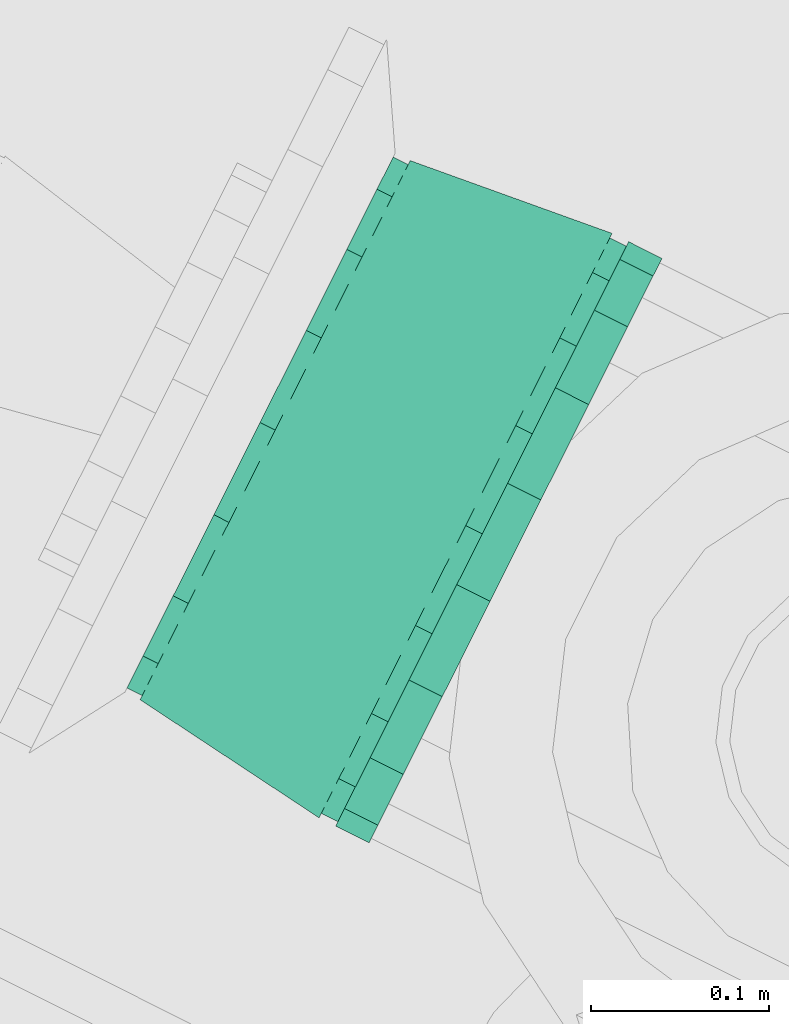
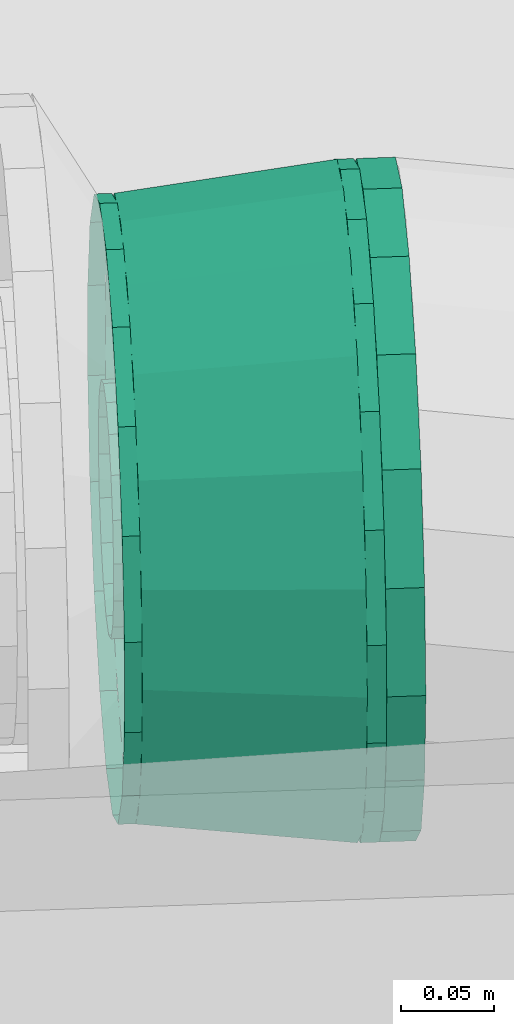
# One storey, part 64 of 206: 1 flow fitting, 1 flow segment.
"""IFC2X3 building model written with IfcOpenShell, lengths in metres."""

import ifcopenshell
import ifcopenshell.guid

model = None  # the IFC model being written
_history = None  # IfcOwnerHistory: only IFC2X3 demands one
_inside = {}  # id of a spatial element -> (the spatial element, [elements in it])
_under = {}  # id of a project, library or spatial element -> (it, [spatial elements below it])
_declared = {}  # id of a project -> (the project, [libraries it declares])
_typed = {}  # id of a type object -> (the type object, [elements of that type])
_made_of = {}  # id of a material, layer set ... -> (it, [elements and type objects made of it])


def new_model(schema):
    """Start an empty IFC model of exactly this schema.

    Asked for "IFC4X3", IfcOpenShell would pick the latest addendum, in which some entities
    have other attributes; the version numbers below select the first issue.
    IFC2X3 requires an IfcOwnerHistory on every rooted entity: one is made here for all.
    """
    global model, _history
    if schema == "IFC4X3":
        model = ifcopenshell.file(schema_version=(4, 3, 0, 0))
    else:
        model = ifcopenshell.file(schema=schema)
    _inside.clear()
    _under.clear()
    _declared.clear()
    _typed.clear()
    _made_of.clear()
    _history = None
    if model.schema == "IFC2X3":
        org = make("IfcOrganization", Name="unknown")
        user = make(
            "IfcPersonAndOrganization",
            ThePerson=make("IfcPerson", FamilyName="unknown"),
            TheOrganization=org,
        )
        app = make(
            "IfcApplication",
            ApplicationDeveloper=org,
            Version="unknown",
            ApplicationFullName="unknown",
            ApplicationIdentifier="unknown",
        )
        _history = make(
            "IfcOwnerHistory",
            OwningUser=user,
            OwningApplication=app,
            ChangeAction="ADDED",
            CreationDate=0,
        )
    return model


def make(cls, **values):
    """One entity of the class cls with the attributes given. An attribute that is None is left unset."""
    return model.create_entity(
        cls, **{name: value for name, value in values.items() if value is not None}
    )


def rooted(cls, **values):
    """An entity with a GlobalId (a new one), such as an element, a storey or a relation."""
    return make(cls, GlobalId=ifcopenshell.guid.new(), OwnerHistory=_history, **values)


def si_unit(unit_type, name, prefix=None):
    """IfcSIUnit, for example si_unit("LENGTHUNIT", "METRE", prefix="MILLI")."""
    return make("IfcSIUnit", UnitType=unit_type, Prefix=prefix, Name=name)


def derived_unit(unit_type, elements):
    """IfcDerivedUnit: a product of units, each with its exponent."""
    return make(
        "IfcDerivedUnit",
        Elements=[
            make("IfcDerivedUnitElement", Unit=unit, Exponent=power)
            for unit, power in elements
        ],
        UnitType=unit_type,
    )


def assignment(units):
    """IfcUnitAssignment: the units of a project."""
    return None if units is None else make("IfcUnitAssignment", Units=units)


def point(xyz):
    """IfcCartesianPoint."""
    return None if xyz is None else make("IfcCartesianPoint", Coordinates=xyz)


def direction(xyz):
    """IfcDirection."""
    return None if xyz is None else make("IfcDirection", DirectionRatios=xyz)


def frame(location, z_axis=None, x_axis=None):
    """IfcAxis2Placement3D, a coordinate frame: its origin and axes. An axis left out is left unset."""
    return make(
        "IfcAxis2Placement3D",
        Location=point(location),
        Axis=direction(z_axis),
        RefDirection=direction(x_axis),
    )


def origin():
    """The frame at (0, 0, 0) with its axes left unset."""
    return frame((0.0, 0.0, 0.0))


def place(relative_to, where):
    """IfcLocalPlacement: puts the frame where relative to a parent placement (None: the world)."""
    return make(
        "IfcLocalPlacement", PlacementRelTo=relative_to, RelativePlacement=where
    )


def context(
    kind, dimensions, precision=None, world=None, true_north=None, identifier=None
):
    """IfcGeometricRepresentationContext, for example the 3D "Model" context."""
    return make(
        "IfcGeometricRepresentationContext",
        ContextIdentifier=identifier,
        ContextType=kind,
        CoordinateSpaceDimension=dimensions,
        Precision=precision,
        WorldCoordinateSystem=world,
        TrueNorth=true_north,
    )


def subcontext(parent, identifier, kind, view, scale=None):
    """IfcGeometricRepresentationSubContext, for example "Body" below "Model"."""
    return make(
        "IfcGeometricRepresentationSubContext",
        ContextIdentifier=identifier,
        ContextType=kind,
        ParentContext=parent,
        TargetScale=scale,
        TargetView=view,
    )


def project(units=None, contexts=None):
    """IfcProject with its units and contexts."""
    return rooted(
        "IfcProject",
        Name="project",
        RepresentationContexts=contexts,
        UnitsInContext=assignment(units),
    )


def spatial(cls, under=None, at=None, **own):
    """A site, building, storey or space (cls), placed at a placement, below another one or the project."""
    s = rooted(cls, ObjectPlacement=at, **own)
    if under is not None:
        _under.setdefault(under.id(), (under, []))[1].append(s)
    return s


def faces_of(points, faces, orient=None, outer=None):
    """IfcFace entities. A face is a list of loops; a loop is a list of indices into points, from 0.

    orient and outer hold one flag for each loop. By default every Orientation is true, the
    first loop of a face is its IfcFaceOuterBound and the others are IfcFaceBound.
    """
    made = []
    for i, loops in enumerate(faces):
        bounds = []
        for j, loop in enumerate(loops):
            is_outer = j == 0 if outer is None else outer[i][j]
            bounds.append(
                make(
                    "IfcFaceOuterBound" if is_outer else "IfcFaceBound",
                    Bound=make("IfcPolyLoop", Polygon=[points[k] for k in loop]),
                    Orientation=True if orient is None else orient[i][j],
                )
            )
        made.append(make("IfcFace", Bounds=bounds))
    return made


def face_set(faces, orient=None, outer=None):
    """The faces of one IfcConnectedFaceSet. surface_model builds it on its shared points."""
    return ("IfcConnectedFaceSet", faces, orient, outer)


def surface_model(cls, points, shells):
    """IfcFaceBasedSurfaceModel or IfcShellBasedSurfaceModel (cls): surfaces that need not close."""
    shared = [point(p) for p in points]
    made = [make(c, CfsFaces=faces_of(shared, fs, o, b)) for c, fs, o, b in shells]
    if cls == "IfcFaceBasedSurfaceModel":
        return make(cls, FbsmFaces=made)
    return make(cls, SbsmBoundary=made)


def shape(context_of_items, identifier, shape_type, items):
    """IfcShapeRepresentation: the items that make up one representation, for example the "Body"."""
    return make(
        "IfcShapeRepresentation",
        ContextOfItems=context_of_items,
        RepresentationIdentifier=identifier,
        RepresentationType=shape_type,
        Items=items,
    )


def source(mapping_origin, context_of_items, identifier, shape_type, items):
    """IfcRepresentationMap: a shape defined once, which mapped items show again and again."""
    return make(
        "IfcRepresentationMap",
        MappingOrigin=mapping_origin,
        MappedRepresentation=shape(context_of_items, identifier, shape_type, items),
    )


def transform(
    local_origin,
    x_axis=None,
    y_axis=None,
    z_axis=None,
    scale=None,
    scale2=None,
    scale3=None,
    uniform=True,
):
    """IfcCartesianTransformationOperator3D, or its non-uniform kind. x_axis, y_axis, z_axis: its Axis1, 2, 3."""
    if uniform:
        return make(
            "IfcCartesianTransformationOperator3D",
            Axis1=direction(x_axis),
            Axis2=direction(y_axis),
            LocalOrigin=point(local_origin),
            Scale=scale,
            Axis3=direction(z_axis),
        )
    return make(
        "IfcCartesianTransformationOperator3DnonUniform",
        Axis1=direction(x_axis),
        Axis2=direction(y_axis),
        LocalOrigin=point(local_origin),
        Scale=scale,
        Axis3=direction(z_axis),
        Scale2=scale2,
        Scale3=scale3,
    )


def mapped(mapping_source, mapping_target):
    """IfcMappedItem: shows the shape of a source again, moved by a transform."""
    return make(
        "IfcMappedItem", MappingSource=mapping_source, MappingTarget=mapping_target
    )


def material(Name=None, Category=None):
    """IfcMaterial."""
    return make("IfcMaterial", Name=Name, Category=Category)


def made_of(thing, what):
    """Note that an element or type object is made of a material, layer set ...; save() writes the relation."""
    if what is not None:
        _made_of.setdefault(what.id(), (what, []))[1].append(thing)
    return thing


def type_object(cls, material=None, **own):
    """A type object (cls), such as IfcWallType, which elements share."""
    return made_of(rooted(cls, **own), material)


def type_shapes(of_type, sources):
    """Give a type object the sources (RepresentationMaps) that its elements show as mapped items."""
    of_type.RepresentationMaps = sources


def element(
    cls,
    number,
    at=None,
    inside=None,
    cuts=None,
    type_object=None,
    material=None,
    context=None,
    identifier="Body",
    shape_type=None,
    held_by="IfcProductDefinitionShape",
    body=None,
    shapes=None,
    **own,
):
    """One element of the class cls, such as IfcWall. Its Tag is "e" and its number.

    at: its placement. inside: the storey or other place that contains it. cuts: it is an
    opening in that element (IfcRelVoidsElement). A single representation is given by context,
    identifier, shape_type and body (its items); several are given by shapes. held_by: the class
    of the entity that holds the representations. save() writes the other relations.
    """
    e = rooted(cls, Tag="e%d" % number, ObjectPlacement=at, **own)
    if body is not None:
        shapes = [shape(context, identifier, shape_type, body)]
    if shapes is not None:
        e.Representation = make(held_by, Representations=shapes)
    if inside is not None:
        _inside.setdefault(inside.id(), (inside, []))[1].append(e)
    if cuts is not None:
        rooted(
            "IfcRelVoidsElement", RelatingBuildingElement=cuts, RelatedOpeningElement=e
        )
    if type_object is not None:
        _typed.setdefault(type_object.id(), (type_object, []))[1].append(e)
    return made_of(e, material)


def aggregate(whole, parts):
    """IfcRelAggregates: a whole, such as a stair, and the parts it consists of."""
    return rooted("IfcRelAggregates", RelatingObject=whole, RelatedObjects=parts)


def save(model, path):
    """Write the relations noted so far, then the file.

    IfcRelAggregates (storeys below a building ...), IfcRelContainedInSpatialStructure (elements
    in a storey), IfcRelDefinesByType, IfcRelAssociatesMaterial and IfcRelDeclares: one each for
    every whole, place, type object, material and project.
    """
    for whole, parts in _under.values():
        aggregate(whole, parts)
    for where, things in _inside.values():
        rooted(
            "IfcRelContainedInSpatialStructure",
            RelatedElements=things,
            RelatingStructure=where,
        )
    for kind, things in _typed.values():
        rooted("IfcRelDefinesByType", RelatedObjects=things, RelatingType=kind)
    for what, things in _made_of.values():
        rooted("IfcRelAssociatesMaterial", RelatedObjects=things, RelatingMaterial=what)
    for by, libraries in _declared.values():
        rooted("IfcRelDeclares", RelatingContext=by, RelatedDefinitions=libraries)
    model.write(path)


model = new_model("IFC2X3")

# Units and contexts
model_context = context("Model", 3, precision=5.2338327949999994e-05, world=origin(), true_north=direction((0.0, 1.0)))
body_context = subcontext(model_context, "Body", "Model", "MODEL_VIEW")
ifc_project = project(units=[si_unit("LENGTHUNIT", "METRE"), si_unit("AREAUNIT", "SQUARE_METRE"), si_unit("VOLUMEUNIT", "CUBIC_METRE"), si_unit("MASSUNIT", "GRAM", prefix="KILO"), si_unit("PLANEANGLEUNIT", "RADIAN"), derived_unit("THERMALTRANSMITTANCEUNIT", [(si_unit("MASSUNIT", "GRAM", prefix="KILO"), 1), (si_unit("THERMODYNAMICTEMPERATUREUNIT", "KELVIN"), -1), (si_unit("TIMEUNIT", "SECOND"), -3)])], contexts=[model_context])

# Site, building, storey
site_placement = place(None, frame((0.0, 0.0, 0.0), z_axis=(0.0, 0.0, 1.0), x_axis=(0.8939966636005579, -0.4480736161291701, 0.0)))
site = spatial("IfcSite", under=ifc_project, at=site_placement, Name="Default", CompositionType="ELEMENT")
building_placement = place(site_placement, origin())
building = spatial("IfcBuilding", under=site, at=building_placement, CompositionType="ELEMENT")
storey_placement = place(building_placement, origin())
storey = spatial("IfcBuildingStorey", under=building, at=storey_placement, Name="Erdgeschoss", CompositionType="ELEMENT", Elevation=0.0)

# Flow fitting
ifc_material = material(Name="IfcSurfaceStyle #1741")
distribution_element_type_1 = type_object("IfcDistributionElementType", Name="Übergangsstück 340926:Übergangsstück 340926", material=ifc_material)
shared_shape_1 = source(origin(), body_context, "Body", "SurfaceModel", [
    surface_model("IfcFaceBasedSurfaceModel", [(26.139855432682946, 5.395961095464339, 2.42385), (26.139855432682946, 5.372070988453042, 2.4196375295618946), (26.149384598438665, 5.372070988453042, 2.4196375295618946), (26.149384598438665, 5.395961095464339, 2.42385), (26.139855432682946, 5.351062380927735, 2.4075082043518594), (26.149384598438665, 5.351062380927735, 2.4075082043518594), (26.139855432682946, 5.335469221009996, 2.3889250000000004), (26.149384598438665, 5.335469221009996, 2.3889250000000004), (26.139855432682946, 5.327172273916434, 2.366129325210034), (26.149384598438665, 5.327172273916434, 2.366129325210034), (26.139855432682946, 5.327172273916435, 2.3418706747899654), (26.149384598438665, 5.327172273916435, 2.3418706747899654), (26.139855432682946, 5.335469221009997, 2.319075), (26.149384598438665, 5.335469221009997, 2.319075), (26.139855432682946, 5.3510623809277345, 2.30049179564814), (26.149384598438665, 5.3510623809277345, 2.30049179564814), (26.139855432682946, 5.372070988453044, 2.288362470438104), (26.149384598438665, 5.372070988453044, 2.288362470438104), (26.139855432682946, 5.3959610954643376, 2.28415), (26.149384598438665, 5.3959610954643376, 2.28415), (26.139855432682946, 5.419851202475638, 2.2883624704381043), (26.149384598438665, 5.419851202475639, 2.2883624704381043), (26.139855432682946, 5.440859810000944, 2.3004917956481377), (26.149384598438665, 5.440859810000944, 2.3004917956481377), (26.139855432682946, 5.456452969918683, 2.3190749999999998), (26.149384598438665, 5.456452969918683, 2.3190749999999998), (26.139855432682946, 5.464749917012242, 2.341870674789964), (26.149384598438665, 5.464749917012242, 2.341870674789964), (26.139855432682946, 5.46474991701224, 2.366129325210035), (26.149384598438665, 5.46474991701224, 2.366129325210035), (26.139855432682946, 5.456452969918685, 2.3889250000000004), (26.149384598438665, 5.456452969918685, 2.3889250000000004), (26.139855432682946, 5.440859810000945, 2.407508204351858), (26.149384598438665, 5.440859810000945, 2.407508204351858), (26.139855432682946, 5.4198512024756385, 2.419637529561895), (26.149384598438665, 5.4198512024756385, 2.419637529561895), (26.149384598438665, 5.3261110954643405, 2.354), (26.149384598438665, 5.330323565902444, 2.330109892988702), (26.269396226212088, 5.316885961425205, 2.325219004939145), (26.269396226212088, 5.311811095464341, 2.354), (26.149384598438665, 5.3424528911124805, 2.309101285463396), (26.269396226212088, 5.331498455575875, 2.2999094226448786), (26.149384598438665, 5.361036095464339, 2.293508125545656), (26.269396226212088, 5.353886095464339, 2.281123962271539), (26.149384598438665, 5.383831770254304, 2.285211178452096), (26.269396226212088, 5.381348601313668, 2.271128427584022), (26.149384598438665, 5.408090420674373, 2.2852111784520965), (26.269396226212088, 5.410573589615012, 2.2711284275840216), (26.149384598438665, 5.43088609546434, 2.293508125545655), (26.269396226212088, 5.438036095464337, 2.2811239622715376), (26.149384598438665, 5.449469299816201, 2.3091012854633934), (26.269396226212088, 5.460423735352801, 2.299909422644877), (26.149384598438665, 5.461598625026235, 2.330109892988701), (26.269396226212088, 5.475036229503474, 2.3252190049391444), (26.149384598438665, 5.465811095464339, 2.3539999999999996), (26.269396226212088, 5.480111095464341, 2.3539999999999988), (26.149384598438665, 5.4615986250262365, 2.377890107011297), (26.269396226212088, 5.475036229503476, 2.3827809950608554), (26.149384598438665, 5.4494692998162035, 2.3988987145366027), (26.269396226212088, 5.460423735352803, 2.4080905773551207), (26.149384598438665, 5.430886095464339, 2.4144918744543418), (26.269396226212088, 5.438036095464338, 2.4268760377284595), (26.149384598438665, 5.408090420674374, 2.422788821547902), (26.269396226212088, 5.410573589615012, 2.436871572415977), (26.149384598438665, 5.383831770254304, 2.4227888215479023), (26.269396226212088, 5.381348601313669, 2.436871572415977), (26.149384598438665, 5.361036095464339, 2.4144918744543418), (26.269396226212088, 5.35388609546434, 2.4268760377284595), (26.149384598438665, 5.3424528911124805, 2.3988987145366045), (26.269396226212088, 5.331498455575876, 2.4080905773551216), (26.149384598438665, 5.330323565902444, 2.377890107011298), (26.269396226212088, 5.316885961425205, 2.382780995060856), (26.269396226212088, 5.395961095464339, 2.438149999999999), (26.269396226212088, 5.367180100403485, 2.4330751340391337), (26.279855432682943, 5.367180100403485, 2.4330751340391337), (26.279855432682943, 5.395961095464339, 2.438149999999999), (26.269396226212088, 5.341870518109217, 2.418462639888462), (26.279855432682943, 5.341870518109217, 2.418462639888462), (26.269396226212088, 5.32308505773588, 2.396075), (26.279855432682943, 5.32308505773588, 2.396075), (26.269396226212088, 5.313089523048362, 2.3686124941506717), (26.279855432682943, 5.313089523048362, 2.3686124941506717), (26.269396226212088, 5.31308952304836, 2.339387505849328), (26.279855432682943, 5.31308952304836, 2.339387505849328), (26.269396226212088, 5.32308505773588, 2.3119249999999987), (26.279855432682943, 5.32308505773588, 2.3119249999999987), (26.269396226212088, 5.341870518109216, 2.289537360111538), (26.279855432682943, 5.341870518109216, 2.289537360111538), (26.269396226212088, 5.367180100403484, 2.2749248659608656), (26.279855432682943, 5.367180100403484, 2.2749248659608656), (26.269396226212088, 5.3959610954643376, 2.26985), (26.279855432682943, 5.3959610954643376, 2.26985), (26.269396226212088, 5.424742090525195, 2.274924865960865), (26.279855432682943, 5.424742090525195, 2.274924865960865), (26.269396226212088, 5.450051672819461, 2.2895373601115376), (26.279855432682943, 5.450051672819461, 2.2895373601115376), (26.269396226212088, 5.4688371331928, 2.3119249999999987), (26.279855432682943, 5.4688371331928, 2.3119249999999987), (26.269396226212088, 5.478832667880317, 2.339387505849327), (26.279855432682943, 5.478832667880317, 2.339387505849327), (26.269396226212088, 5.478832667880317, 2.3686124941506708), (26.279855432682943, 5.478832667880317, 2.3686124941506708), (26.269396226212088, 5.468837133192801, 2.3960750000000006), (26.279855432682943, 5.468837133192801, 2.3960750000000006), (26.269396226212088, 5.450051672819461, 2.4184626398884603), (26.279855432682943, 5.450051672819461, 2.4184626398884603), (26.269396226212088, 5.4247420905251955, 2.4330751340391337), (26.279855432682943, 5.4247420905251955, 2.4330751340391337), (26.139855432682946, 5.39596109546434, 2.5238499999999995), (26.139855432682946, 5.337868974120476, 2.513606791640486), (26.149384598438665, 5.337868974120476, 2.513606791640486), (26.149384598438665, 5.39596109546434, 2.5238499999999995), (26.139855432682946, 5.28678361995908, 2.4841126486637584), (26.149384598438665, 5.28678361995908, 2.4841126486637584), (26.139855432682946, 5.248866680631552, 2.4389250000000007), (26.149384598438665, 5.248866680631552, 2.4389250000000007), (26.139855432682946, 5.228691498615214, 2.383494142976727), (26.149384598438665, 5.228691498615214, 2.383494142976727), (26.139855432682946, 5.228691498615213, 2.3245058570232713), (26.149384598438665, 5.228691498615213, 2.3245058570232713), (26.139855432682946, 5.248866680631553, 2.269075), (26.149384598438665, 5.248866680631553, 2.269075), (26.139855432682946, 5.2867836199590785, 2.2238873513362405), (26.149384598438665, 5.2867836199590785, 2.2238873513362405), (26.139855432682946, 5.337868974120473, 2.1943932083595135), (26.149384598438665, 5.337868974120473, 2.1943932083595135), (26.139855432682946, 5.395961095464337, 2.1841499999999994), (26.149384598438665, 5.395961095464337, 2.1841499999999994), (26.139855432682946, 5.454053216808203, 2.1943932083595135), (26.149384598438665, 5.454053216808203, 2.1943932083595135), (26.139855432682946, 5.505138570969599, 2.2238873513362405), (26.149384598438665, 5.505138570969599, 2.2238873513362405), (26.139855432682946, 5.543055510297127, 2.2690749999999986), (26.149384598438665, 5.543055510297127, 2.2690749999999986), (26.139855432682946, 5.563230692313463, 2.3245058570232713), (26.149384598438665, 5.563230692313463, 2.3245058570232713), (26.139855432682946, 5.563230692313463, 2.3834941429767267), (26.149384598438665, 5.563230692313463, 2.3834941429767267), (26.139855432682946, 5.543055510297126, 2.4389249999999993), (26.149384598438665, 5.543055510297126, 2.4389249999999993), (26.139855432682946, 5.5051385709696, 2.484112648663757), (26.149384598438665, 5.5051385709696, 2.484112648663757), (26.139855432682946, 5.454053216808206, 2.513606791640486), (26.149384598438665, 5.454053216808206, 2.513606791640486), (26.149384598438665, 5.226111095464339, 2.3540000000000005), (26.149384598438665, 5.2363543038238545, 2.2959078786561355), (26.269396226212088, 5.222916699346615, 2.2910169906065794), (26.269396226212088, 5.211811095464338, 2.3540000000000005), (26.149384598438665, 5.26584844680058, 2.244822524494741), (26.269396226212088, 5.254894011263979, 2.235630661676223), (26.149384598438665, 5.311036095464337, 2.206905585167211), (26.269396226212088, 5.303886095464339, 2.194521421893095), (26.149384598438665, 5.366466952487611, 2.1867304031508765), (26.269396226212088, 5.363983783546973, 2.172647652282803), (26.149384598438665, 5.425455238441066, 2.1867304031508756), (26.269396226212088, 5.4279384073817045, 2.172647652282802), (26.149384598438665, 5.480886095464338, 2.206905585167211), (26.269396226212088, 5.488036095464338, 2.194521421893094), (26.149384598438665, 5.526073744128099, 2.244822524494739), (26.269396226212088, 5.5370281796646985, 2.235630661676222), (26.149384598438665, 5.555567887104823, 2.2959078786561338), (26.269396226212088, 5.569005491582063, 2.2910169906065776), (26.149384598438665, 5.565811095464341, 2.353999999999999), (26.269396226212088, 5.580111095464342, 2.353999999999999), (26.149384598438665, 5.555567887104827, 2.4120921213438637), (26.269396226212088, 5.5690054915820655, 2.4169830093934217), (26.149384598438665, 5.526073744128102, 2.463177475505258), (26.269396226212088, 5.5370281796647, 2.4723693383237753), (26.149384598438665, 5.48088609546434, 2.501094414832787), (26.269396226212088, 5.48803609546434, 2.513478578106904), (26.149384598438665, 5.425455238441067, 2.5212695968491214), (26.269396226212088, 5.427938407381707, 2.5353523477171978), (26.149384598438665, 5.366466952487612, 2.521269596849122), (26.269396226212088, 5.363983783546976, 2.5353523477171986), (26.149384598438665, 5.311036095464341, 2.5010944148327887), (26.269396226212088, 5.3038860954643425, 2.513478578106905), (26.149384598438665, 5.2658484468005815, 2.463177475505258), (26.269396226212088, 5.254894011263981, 2.4723693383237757), (26.149384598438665, 5.236354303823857, 2.412092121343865), (26.269396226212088, 5.222916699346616, 2.4169830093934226), (26.269396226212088, 5.395961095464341, 2.538149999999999), (26.269396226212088, 5.332978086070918, 2.527044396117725), (26.279855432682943, 5.332978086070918, 2.527044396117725), (26.279855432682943, 5.395961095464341, 2.538149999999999), (26.269396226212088, 5.277591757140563, 2.4950670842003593), (26.279855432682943, 5.277591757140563, 2.4950670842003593), (26.269396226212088, 5.236482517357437, 2.4460749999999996), (26.279855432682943, 5.236482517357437, 2.4460749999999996), (26.269396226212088, 5.214608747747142, 2.3859773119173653), (26.279855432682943, 5.214608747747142, 2.3859773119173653), (26.269396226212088, 5.214608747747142, 2.322022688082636), (26.279855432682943, 5.214608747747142, 2.322022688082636), (26.269396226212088, 5.2364825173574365, 2.2619249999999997), (26.279855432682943, 5.2364825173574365, 2.2619249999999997), (26.269396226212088, 5.277591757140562, 2.21293291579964), (26.279855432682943, 5.277591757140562, 2.21293291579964), (26.269396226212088, 5.3329780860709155, 2.1809556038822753), (26.279855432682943, 5.3329780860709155, 2.1809556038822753), (26.269396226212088, 5.3959610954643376, 2.1698500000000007), (26.279855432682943, 5.3959610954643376, 2.1698500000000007), (26.269396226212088, 5.458944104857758, 2.180955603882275), (26.279855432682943, 5.458944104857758, 2.180955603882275), (26.269396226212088, 5.514330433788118, 2.2129329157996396), (26.279855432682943, 5.514330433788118, 2.2129329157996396), (26.269396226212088, 5.555439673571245, 2.261924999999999), (26.279855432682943, 5.555439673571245, 2.261924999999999), (26.269396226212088, 5.577313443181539, 2.3220226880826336), (26.279855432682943, 5.577313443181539, 2.3220226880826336), (26.269396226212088, 5.577313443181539, 2.3859773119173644), (26.279855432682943, 5.577313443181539, 2.3859773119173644), (26.269396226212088, 5.555439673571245, 2.4460749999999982), (26.279855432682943, 5.555439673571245, 2.4460749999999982), (26.269396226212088, 5.5143304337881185, 2.4950670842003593), (26.279855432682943, 5.5143304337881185, 2.4950670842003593), (26.269396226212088, 5.458944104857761, 2.5270443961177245), (26.279855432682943, 5.458944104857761, 2.5270443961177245)], [face_set([[[0, 1, 2, 3]], [[1, 4, 5, 2]], [[4, 6, 7, 5]], [[6, 8, 9, 7]], [[8, 10, 11, 9]], [[10, 12, 13, 11]], [[12, 14, 15, 13]], [[14, 16, 17, 15]], [[16, 18, 19, 17]], [[18, 20, 21, 19]], [[20, 22, 23, 21]], [[22, 24, 25, 23]], [[24, 26, 27, 25]], [[26, 28, 29, 27]], [[28, 30, 31, 29]], [[30, 32, 33, 31]], [[32, 34, 35, 33]], [[34, 0, 3, 35]], [[36, 37, 38, 39]], [[37, 40, 41, 38]], [[40, 42, 43, 41]], [[42, 44, 45, 43]], [[44, 46, 47, 45]], [[46, 48, 49, 47]], [[48, 50, 51, 49]], [[50, 52, 53, 51]], [[52, 54, 55, 53]], [[54, 56, 57, 55]], [[56, 58, 59, 57]], [[58, 60, 61, 59]], [[60, 62, 63, 61]], [[62, 64, 65, 63]], [[64, 66, 67, 65]], [[66, 68, 69, 67]], [[68, 70, 71, 69]], [[70, 36, 39, 71]], [[72, 73, 74, 75]], [[73, 76, 77, 74]], [[76, 78, 79, 77]], [[78, 80, 81, 79]], [[80, 82, 83, 81]], [[82, 84, 85, 83]], [[84, 86, 87, 85]], [[86, 88, 89, 87]], [[88, 90, 91, 89]], [[90, 92, 93, 91]], [[92, 94, 95, 93]], [[94, 96, 97, 95]], [[96, 98, 99, 97]], [[98, 100, 101, 99]], [[100, 102, 103, 101]], [[102, 104, 105, 103]], [[104, 106, 107, 105]], [[106, 72, 75, 107]], [[108, 109, 110, 111]], [[109, 112, 113, 110]], [[112, 114, 115, 113]], [[114, 116, 117, 115]], [[116, 118, 119, 117]], [[118, 120, 121, 119]], [[120, 122, 123, 121]], [[122, 124, 125, 123]], [[124, 126, 127, 125]], [[126, 128, 129, 127]], [[128, 130, 131, 129]], [[130, 132, 133, 131]], [[132, 134, 135, 133]], [[134, 136, 137, 135]], [[136, 138, 139, 137]], [[138, 140, 141, 139]], [[140, 142, 143, 141]], [[142, 108, 111, 143]], [[144, 145, 146, 147]], [[145, 148, 149, 146]], [[148, 150, 151, 149]], [[150, 152, 153, 151]], [[152, 154, 155, 153]], [[154, 156, 157, 155]], [[156, 158, 159, 157]], [[158, 160, 161, 159]], [[160, 162, 163, 161]], [[162, 164, 165, 163]], [[164, 166, 167, 165]], [[166, 168, 169, 167]], [[168, 170, 171, 169]], [[170, 172, 173, 171]], [[172, 174, 175, 173]], [[174, 176, 177, 175]], [[176, 178, 179, 177]], [[178, 144, 147, 179]], [[180, 181, 182, 183]], [[181, 184, 185, 182]], [[184, 186, 187, 185]], [[186, 188, 189, 187]], [[188, 190, 191, 189]], [[190, 192, 193, 191]], [[192, 194, 195, 193]], [[194, 196, 197, 195]], [[196, 198, 199, 197]], [[198, 200, 201, 199]], [[200, 202, 203, 201]], [[202, 204, 205, 203]], [[204, 206, 207, 205]], [[206, 208, 209, 207]], [[208, 210, 211, 209]], [[210, 212, 213, 211]], [[212, 214, 215, 213]], [[214, 180, 183, 215]]])]),
])
type_shapes(distribution_element_type_1, [shared_shape_1])
flow_fitting_placement = place(storey_placement, origin())
element("IfcFlowFitting", 1, at=flow_fitting_placement, inside=storey, type_object=distribution_element_type_1, material=ifc_material, Name="Übergangsstück", ObjectType="Übergangsstück", context=body_context, shape_type="MappedRepresentation", body=[
    mapped(shared_shape_1, transform((0.0, 0.0, 0.0), scale=1.0)),
])

# Flow segment
distribution_element_type_2 = type_object("IfcDistributionElementType", Name="Stahlrohr nach DIN 2448 340949:Stahlrohr nach DIN 2448 340949", material=ifc_material)
shared_shape_2 = source(origin(), body_context, "Body", "SurfaceModel", [
    surface_model("IfcFaceBasedSurfaceModel", [(26.30082323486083, 5.4801110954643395, 2.354), (26.30082323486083, 5.4750362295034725, 2.325219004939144), (26.279855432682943, 5.475036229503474, 2.325219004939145), (26.279855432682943, 5.480111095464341, 2.3540000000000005), (26.30082323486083, 5.4604237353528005, 2.2999094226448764), (26.279855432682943, 5.460423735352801, 2.299909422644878), (26.30082323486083, 5.438036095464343, 2.2811239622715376), (26.279855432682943, 5.43803609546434, 2.2811239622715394), (26.30082323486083, 5.410573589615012, 2.2711284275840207), (26.279855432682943, 5.410573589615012, 2.271128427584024), (26.30082323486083, 5.38134860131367, 2.2711284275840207), (26.279855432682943, 5.381348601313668, 2.2711284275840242), (26.30082323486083, 5.353886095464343, 2.2811239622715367), (26.279855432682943, 5.35388609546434, 2.2811239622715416), (26.30082323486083, 5.331498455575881, 2.299909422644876), (26.279855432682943, 5.331498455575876, 2.2999094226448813), (26.30082323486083, 5.316885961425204, 2.325219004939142), (26.279855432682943, 5.316885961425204, 2.3252190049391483), (26.30082323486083, 5.311811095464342, 2.353999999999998), (26.279855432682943, 5.311811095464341, 2.354000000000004), (26.30082323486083, 5.3168859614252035, 2.382780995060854), (26.279855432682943, 5.316885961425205, 2.3827809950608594), (26.30082323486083, 5.331498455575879, 2.408090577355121), (26.279855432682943, 5.331498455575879, 2.4080905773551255), (26.30082323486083, 5.35388609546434, 2.4268760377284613), (26.279855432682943, 5.35388609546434, 2.426876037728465), (26.30082323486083, 5.381348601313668, 2.436871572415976), (26.279855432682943, 5.38134860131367, 2.4368715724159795), (26.30082323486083, 5.4105735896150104, 2.436871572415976), (26.279855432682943, 5.410573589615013, 2.4368715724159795), (26.30082323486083, 5.438036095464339, 2.426876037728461), (26.279855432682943, 5.43803609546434, 2.426876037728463), (26.30082323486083, 5.4604237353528, 2.408090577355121), (26.279855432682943, 5.460423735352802, 2.408090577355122), (26.30082323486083, 5.4750362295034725, 2.3827809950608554), (26.279855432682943, 5.475036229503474, 2.382780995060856), (26.30082323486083, 5.58011109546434, 2.3540000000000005), (26.30082323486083, 5.5690054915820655, 2.291016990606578), (26.27985543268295, 5.569005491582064, 2.2910169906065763), (26.27985543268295, 5.580111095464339, 2.3539999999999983), (26.30082323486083, 5.537028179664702, 2.2356306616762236), (26.27985543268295, 5.5370281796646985, 2.2356306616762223), (26.30082323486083, 5.488036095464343, 2.1945214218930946), (26.27985543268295, 5.488036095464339, 2.1945214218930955), (26.30082323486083, 5.427938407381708, 2.1726476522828), (26.27985543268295, 5.427938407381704, 2.1726476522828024), (26.30082323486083, 5.363983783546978, 2.1726476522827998), (26.27985543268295, 5.363983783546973, 2.1726476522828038), (26.30082323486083, 5.3038860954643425, 2.194521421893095), (26.27985543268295, 5.303886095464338, 2.194521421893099), (26.30082323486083, 5.254894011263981, 2.235630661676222), (26.27985543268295, 5.254894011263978, 2.235630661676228), (26.30082323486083, 5.222916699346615, 2.291016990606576), (26.27985543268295, 5.222916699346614, 2.291016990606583), (26.30082323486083, 5.211811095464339, 2.353999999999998), (26.27985543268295, 5.211811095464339, 2.3540000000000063), (26.30082323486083, 5.222916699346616, 2.4169830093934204), (26.27985543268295, 5.222916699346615, 2.416983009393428), (26.30082323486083, 5.254894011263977, 2.4723693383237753), (26.27985543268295, 5.254894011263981, 2.4723693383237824), (26.30082323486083, 5.303886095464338, 2.513478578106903), (26.27985543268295, 5.3038860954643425, 2.513478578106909), (26.30082323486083, 5.363983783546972, 2.5353523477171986), (26.27985543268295, 5.363983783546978, 2.535352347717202), (26.30082323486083, 5.427938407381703, 2.535352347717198), (26.27985543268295, 5.427938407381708, 2.535352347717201), (26.30082323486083, 5.488036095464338, 2.5134785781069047), (26.27985543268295, 5.488036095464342, 2.513478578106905), (26.30082323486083, 5.537028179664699, 2.472369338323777), (26.27985543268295, 5.537028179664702, 2.4723693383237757), (26.30082323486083, 5.569005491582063, 2.4169830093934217), (26.27985543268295, 5.569005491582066, 2.4169830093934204)], [face_set([[[0, 1, 2, 3]], [[1, 4, 5, 2]], [[4, 6, 7, 5]], [[6, 8, 9, 7]], [[8, 10, 11, 9]], [[10, 12, 13, 11]], [[12, 14, 15, 13]], [[14, 16, 17, 15]], [[16, 18, 19, 17]], [[18, 20, 21, 19]], [[20, 22, 23, 21]], [[22, 24, 25, 23]], [[24, 26, 27, 25]], [[26, 28, 29, 27]], [[28, 30, 31, 29]], [[30, 32, 33, 31]], [[32, 34, 35, 33]], [[34, 0, 3, 35]], [[36, 37, 38, 39]], [[37, 40, 41, 38]], [[40, 42, 43, 41]], [[42, 44, 45, 43]], [[44, 46, 47, 45]], [[46, 48, 49, 47]], [[48, 50, 51, 49]], [[50, 52, 53, 51]], [[52, 54, 55, 53]], [[54, 56, 57, 55]], [[56, 58, 59, 57]], [[58, 60, 61, 59]], [[60, 62, 63, 61]], [[62, 64, 65, 63]], [[64, 66, 67, 65]], [[66, 68, 69, 67]], [[68, 70, 71, 69]], [[70, 36, 39, 71]]])]),
])
type_shapes(distribution_element_type_2, [shared_shape_2])
flow_segment_placement = place(storey_placement, origin())
element("IfcFlowSegment", 2, at=flow_segment_placement, inside=storey, type_object=distribution_element_type_2, material=ifc_material, Name="Stahlrohr nach DIN 2448", ObjectType="Stahlrohr nach DIN 2448", context=body_context, shape_type="MappedRepresentation", body=[
    mapped(shared_shape_2, transform((0.0, 0.0, 0.0), scale=1.0)),
])

save(model, "model.ifc")
